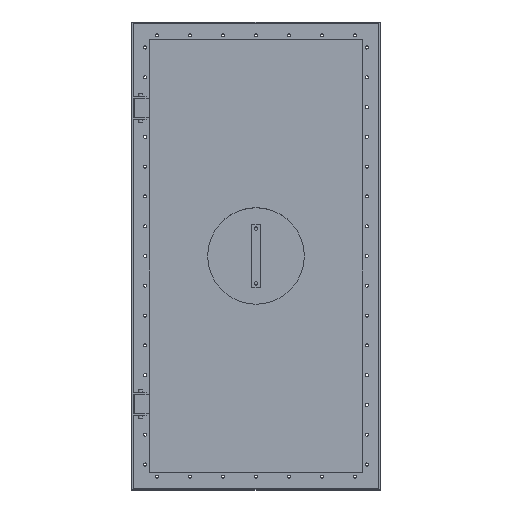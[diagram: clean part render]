
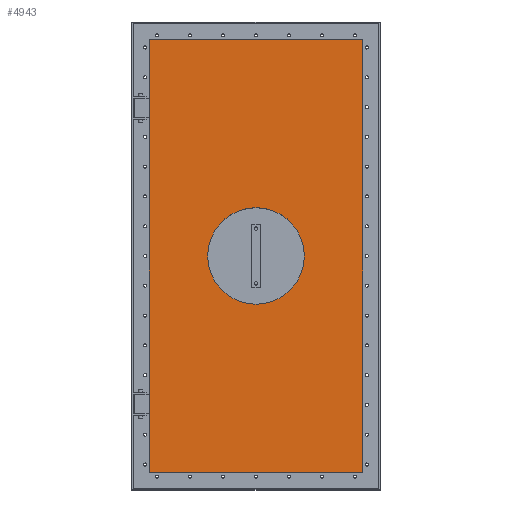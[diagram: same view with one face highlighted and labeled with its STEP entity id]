
A CAD part, top view. The second image highlights one B-rep face of the part: STEP entity #4943.
In plain terms, the highlighted planar face has unit normal (0, 0, 1).
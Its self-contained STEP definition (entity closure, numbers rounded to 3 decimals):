
#1687=DIRECTION('',(0.,-1.,0.));
#1688=VECTOR('',#1687,1972.);
#1689=CARTESIAN_POINT('',(-486.,986.,-66.));
#1690=LINE('',#1689,#1688);
#1691=DIRECTION('',(-1.,0.,0.));
#1692=VECTOR('',#1691,972.);
#1693=CARTESIAN_POINT('',(486.,986.,-66.));
#1694=LINE('',#1693,#1692);
#1695=DIRECTION('',(0.,1.,0.));
#1696=VECTOR('',#1695,1972.);
#1697=CARTESIAN_POINT('',(486.,-986.,-66.));
#1698=LINE('',#1697,#1696);
#1699=DIRECTION('',(1.,0.,0.));
#1700=VECTOR('',#1699,972.);
#1701=CARTESIAN_POINT('',(-486.,-986.,-66.));
#1702=LINE('',#1701,#1700);
#1703=CARTESIAN_POINT('',(0.,0.,-66.));
#1704=DIRECTION('',(0.,0.,1.));
#1705=DIRECTION('',(1.,0.,0.));
#1706=AXIS2_PLACEMENT_3D('',#1703,#1704,#1705);
#1708=CARTESIAN_POINT('',(0.,0.,-66.));
#1709=DIRECTION('',(0.,0.,1.));
#1710=DIRECTION('',(-1.,0.,0.));
#1711=AXIS2_PLACEMENT_3D('',#1708,#1709,#1710);
#2831=CARTESIAN_POINT('',(-486.,986.,-66.));
#2832=CARTESIAN_POINT('',(-486.,-986.,-66.));
#2833=VERTEX_POINT('',#2831);
#2834=VERTEX_POINT('',#2832);
#2835=CARTESIAN_POINT('',(486.,-986.,-66.));
#2836=VERTEX_POINT('',#2835);
#2837=CARTESIAN_POINT('',(486.,986.,-66.));
#2838=VERTEX_POINT('',#2837);
#3575=CARTESIAN_POINT('',(220.,0.,-66.));
#3576=CARTESIAN_POINT('',(-220.,0.,-66.));
#3577=VERTEX_POINT('',#3575);
#3578=VERTEX_POINT('',#3576);
#4926=CARTESIAN_POINT('',(0.,0.,-66.));
#4927=DIRECTION('',(0.,0.,1.));
#4928=DIRECTION('',(1.,0.,0.));
#4929=AXIS2_PLACEMENT_3D('',#4926,#4927,#4928);
#4930=PLANE('',#4929);
#4931=ORIENTED_EDGE('',*,*,#4830,.F.);
#4932=ORIENTED_EDGE('',*,*,#4872,.F.);
#4933=ORIENTED_EDGE('',*,*,#4893,.F.);
#4934=ORIENTED_EDGE('',*,*,#4913,.F.);
#4935=EDGE_LOOP('',(#4931,#4932,#4933,#4934));
#4936=FACE_OUTER_BOUND('',#4935,.F.);
#4938=ORIENTED_EDGE('',*,*,#4937,.T.);
#4940=ORIENTED_EDGE('',*,*,#4939,.T.);
#4941=EDGE_LOOP('',(#4938,#4940));
#4942=FACE_BOUND('',#4941,.F.);
#1707=CIRCLE('',#1706,220.);
#1712=CIRCLE('',#1711,220.);
#4830=EDGE_CURVE('',#2833,#2834,#1690,.T.);
#4872=EDGE_CURVE('',#2838,#2833,#1694,.T.);
#4893=EDGE_CURVE('',#2836,#2838,#1698,.T.);
#4913=EDGE_CURVE('',#2834,#2836,#1702,.T.);
#4937=EDGE_CURVE('',#3577,#3578,#1707,.T.);
#4939=EDGE_CURVE('',#3578,#3577,#1712,.T.);
#4943=ADVANCED_FACE('',(#4936,#4942),#4930,.T.);
